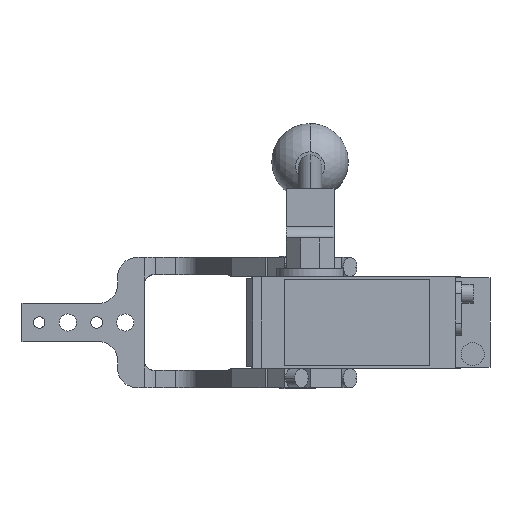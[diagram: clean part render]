
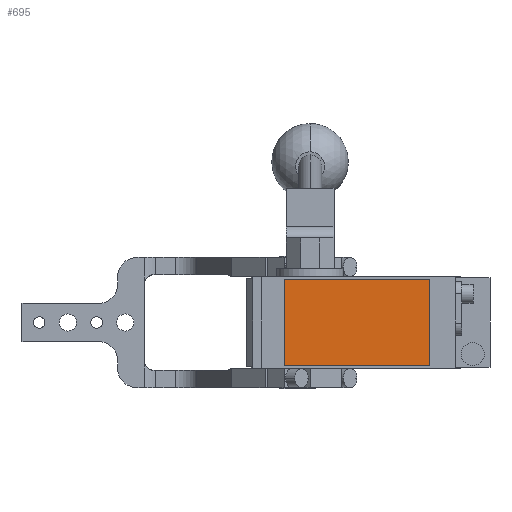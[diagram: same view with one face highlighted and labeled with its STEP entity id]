
A CAD part, front view. The second image highlights one B-rep face of the part: STEP entity #695.
In plain terms, the highlighted planar face has unit normal (0, -1, 0).
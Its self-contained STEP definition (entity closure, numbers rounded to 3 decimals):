
#695 = ADVANCED_FACE ( 'NONE', ( #3115 ), #6755, .T. ) ;
#1151 = LINE ( 'NONE', #10541, #4397 ) ;
#2217 = CARTESIAN_POINT ( 'NONE',  ( 0., -280.5, 0. ) ) ;
#2290 = ORIENTED_EDGE ( 'NONE', *, *, #7774, .T. ) ;
#2554 = CARTESIAN_POINT ( 'NONE',  ( -7., -280.5, 22.5 ) ) ;
#3115 = FACE_OUTER_BOUND ( 'NONE', #5588, .T. ) ;
#3197 = DIRECTION ( 'NONE',  ( 0., 0., -1. ) ) ;
#3962 = DIRECTION ( 'NONE',  ( -1., 0., 0. ) ) ;
#4397 = VECTOR ( 'NONE', #13789, 1000. ) ;
#4831 = AXIS2_PLACEMENT_3D ( 'NONE', #2217, #5461, #3197 ) ;
#4861 = VECTOR ( 'NONE', #3962, 1000. ) ;
#4949 = CARTESIAN_POINT ( 'NONE',  ( -7., -280.5, -22.5 ) ) ;
#5013 = ORIENTED_EDGE ( 'NONE', *, *, #9054, .T. ) ;
#5393 = LINE ( 'NONE', #13601, #12107 ) ;
#5461 = DIRECTION ( 'NONE',  ( 0., -1., 0. ) ) ;
#5469 = DIRECTION ( 'NONE',  ( 0., 0., -1. ) ) ;
#5588 = EDGE_LOOP ( 'NONE', ( #5013, #7083, #9286, #2290 ) ) ;
#6091 = VERTEX_POINT ( 'NONE', #2554 ) ;
#6755 = PLANE ( 'NONE',  #4831 ) ;
#7083 = ORIENTED_EDGE ( 'NONE', *, *, #12778, .T. ) ;
#7717 = DIRECTION ( 'NONE',  ( 1., 0., 0. ) ) ;
#7774 = EDGE_CURVE ( 'NONE', #7813, #6091, #12157, .T. ) ;
#7813 = VERTEX_POINT ( 'NONE', #12081 ) ;
#9054 = EDGE_CURVE ( 'NONE', #6091, #13009, #5393, .T. ) ;
#9286 = ORIENTED_EDGE ( 'NONE', *, *, #10340, .T. ) ;
#9464 = CARTESIAN_POINT ( 'NONE',  ( 69., -280.5, -22.5 ) ) ;
#10340 = EDGE_CURVE ( 'NONE', #10393, #7813, #1151, .T. ) ;
#10393 = VERTEX_POINT ( 'NONE', #9464 ) ;
#10541 = CARTESIAN_POINT ( 'NONE',  ( 69., -280.5, 22.5 ) ) ;
#12019 = CARTESIAN_POINT ( 'NONE',  ( -7., -280.5, 22.5 ) ) ;
#12081 = CARTESIAN_POINT ( 'NONE',  ( 69., -280.5, 22.5 ) ) ;
#12107 = VECTOR ( 'NONE', #5469, 1000. ) ;
#12157 = LINE ( 'NONE', #12019, #4861 ) ;
#12200 = CARTESIAN_POINT ( 'NONE',  ( -7., -280.5, -22.5 ) ) ;
#12699 = VECTOR ( 'NONE', #7717, 1000. ) ;
#12778 = EDGE_CURVE ( 'NONE', #13009, #10393, #13260, .T. ) ;
#13009 = VERTEX_POINT ( 'NONE', #4949 ) ;
#13260 = LINE ( 'NONE', #12200, #12699 ) ;
#13601 = CARTESIAN_POINT ( 'NONE',  ( -7., -280.5, 22.5 ) ) ;
#13789 = DIRECTION ( 'NONE',  ( 0., 0., 1. ) ) ;
